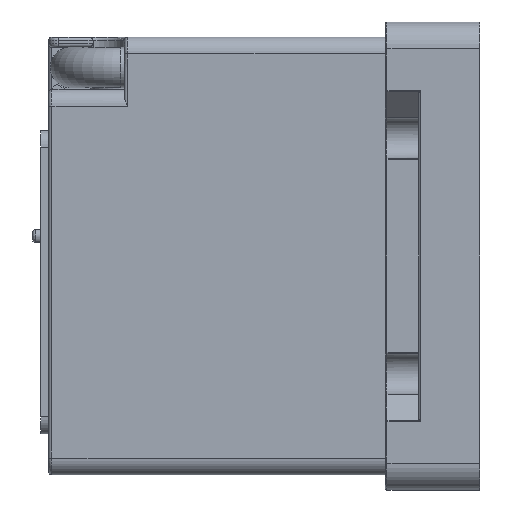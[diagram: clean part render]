
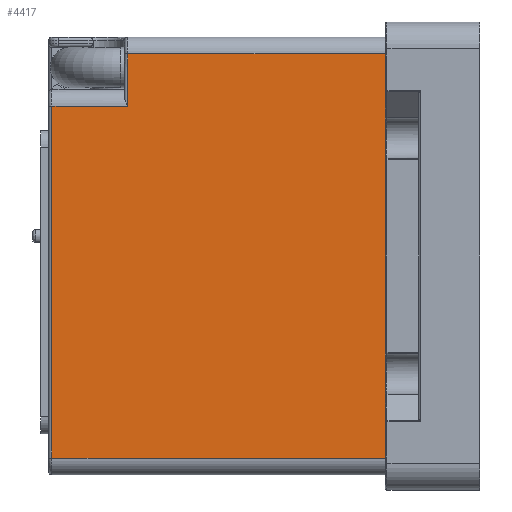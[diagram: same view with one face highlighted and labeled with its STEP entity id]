
A CAD part, left-side view. The second image highlights one B-rep face of the part: STEP entity #4417.
In plain terms, the highlighted planar face has unit normal (-1, 0, 0) as drawn and (0, 1, 0) by its records, which use the part's own axes.
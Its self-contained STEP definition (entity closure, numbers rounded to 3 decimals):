
#4417=ADVANCED_FACE('',(#8032),#6106,.F.);
#6106=PLANE('',#44111);
#8032=FACE_OUTER_BOUND('',#10321,.T.);
#10321=EDGE_LOOP('',(#20847,#20848,#20849,#20850,#20851,#20852));
#20847=ORIENTED_EDGE('',*,*,#31681,.T.);
#20848=ORIENTED_EDGE('',*,*,#31682,.T.);
#20849=ORIENTED_EDGE('',*,*,#31683,.T.);
#20850=ORIENTED_EDGE('',*,*,#31684,.T.);
#20851=ORIENTED_EDGE('',*,*,#31685,.T.);
#20852=ORIENTED_EDGE('',*,*,#31686,.T.);
#26319=VERTEX_POINT('',#72893);
#26320=VERTEX_POINT('',#72894);
#26321=VERTEX_POINT('',#72896);
#26322=VERTEX_POINT('',#72898);
#26323=VERTEX_POINT('',#72900);
#26324=VERTEX_POINT('',#72902);
#31681=EDGE_CURVE('',#26319,#26320,#36473,.T.);
#31682=EDGE_CURVE('',#26320,#26321,#36474,.T.);
#31683=EDGE_CURVE('',#26321,#26322,#36475,.T.);
#31684=EDGE_CURVE('',#26322,#26323,#36476,.T.);
#31685=EDGE_CURVE('',#26323,#26324,#36477,.T.);
#31686=EDGE_CURVE('',#26324,#26319,#36478,.T.);
#36473=LINE('',#72892,#41254);
#36474=LINE('',#72895,#41255);
#36475=LINE('',#72897,#41256);
#36476=LINE('',#72899,#41257);
#36477=LINE('',#72901,#41258);
#36478=LINE('',#72903,#41259);
#41254=VECTOR('',#53110,1.);
#41255=VECTOR('',#53111,1.);
#41256=VECTOR('',#53112,1.);
#41257=VECTOR('',#53113,1.);
#41258=VECTOR('',#53114,1.);
#41259=VECTOR('',#53115,1.);
#44111=AXIS2_PLACEMENT_3D('',#72904,#53116,#53117);
#53110=DIRECTION('',(0.,0.,1.));
#53111=DIRECTION('',(1.,0.,0.));
#53112=DIRECTION('',(0.,0.,-1.));
#53113=DIRECTION('',(-1.,0.,0.));
#53114=DIRECTION('',(0.,0.,1.));
#53115=DIRECTION('',(1.,0.,0.));
#53116=DIRECTION('',(0.,-1.,0.));
#53117=DIRECTION('',(0.,0.,-1.));
#72892=CARTESIAN_POINT('',(-44.5,75.,70.429));
#72893=CARTESIAN_POINT('',(-44.5,75.,76.5));
#72894=CARTESIAN_POINT('',(-44.5,75.,99.));
#72895=CARTESIAN_POINT('',(60.,75.,99.));
#72896=CARTESIAN_POINT('',(60.,75.,99.));
#72897=CARTESIAN_POINT('',(60.,75.,100.));
#72898=CARTESIAN_POINT('',(60.,75.,0.));
#72899=CARTESIAN_POINT('',(-65.,75.,0.));
#72900=CARTESIAN_POINT('',(-60.,75.,0.));
#72901=CARTESIAN_POINT('',(-60.,75.,100.));
#72902=CARTESIAN_POINT('',(-60.,75.,76.5));
#72903=CARTESIAN_POINT('',(-44.5,75.,76.5));
#72904=CARTESIAN_POINT('',(-65.,75.,100.));
